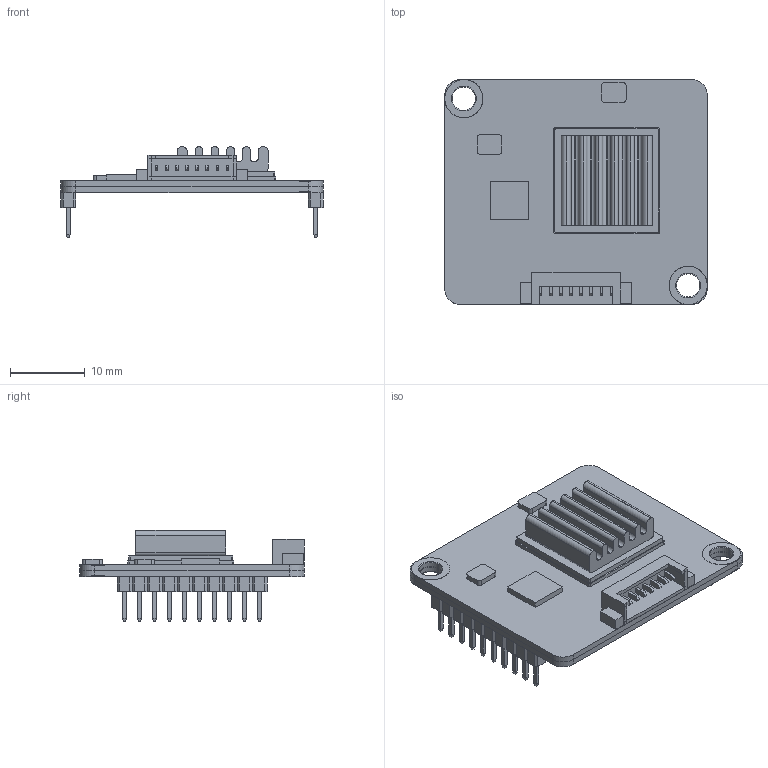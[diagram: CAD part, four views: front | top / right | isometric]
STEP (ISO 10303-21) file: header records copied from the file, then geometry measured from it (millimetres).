
FILE_DESCRIPTION(/* description */ (''),/* implementation_level */ '2;1');
FILE_NAME(/* name */ '2',/* time_stamp */ '2025-03-25T14:14:36+08:00',/* author */ (''),/* organization */ (''),/* preprocessor_version */ 'ST-DEVELOPER v19.2',/* originating_system */ 'Rhino 8.1',/* authorisation */ '');
FILE_SCHEMA (('CONFIG_CONTROL_DESIGN'));
Length unit declared in the file: millimetre
Products named in the file (1): Document
Bounding box: 35.02 x 30.02 x 12.14 mm (x, y, z)
Volume: 880.2 mm3; surface area: 5025.8 mm2
Topology: 61 solids, 66 shells, 676 faces, 1560 edges, 1008 vertices
Faces by surface type: plane 584, cylinder 84, bspline 8
Entity records: 17469 total; most frequent: CARTESIAN_POINT 5254, ORIENTED_EDGE 3096, EDGE_CURVE 1560, B_SPLINE_CURVE_WITH_KNOTS 1368, DIRECTION 1034, VERTEX_POINT 1008, AXIS2_PLACEMENT_3D 851, EDGE_LOOP 688
